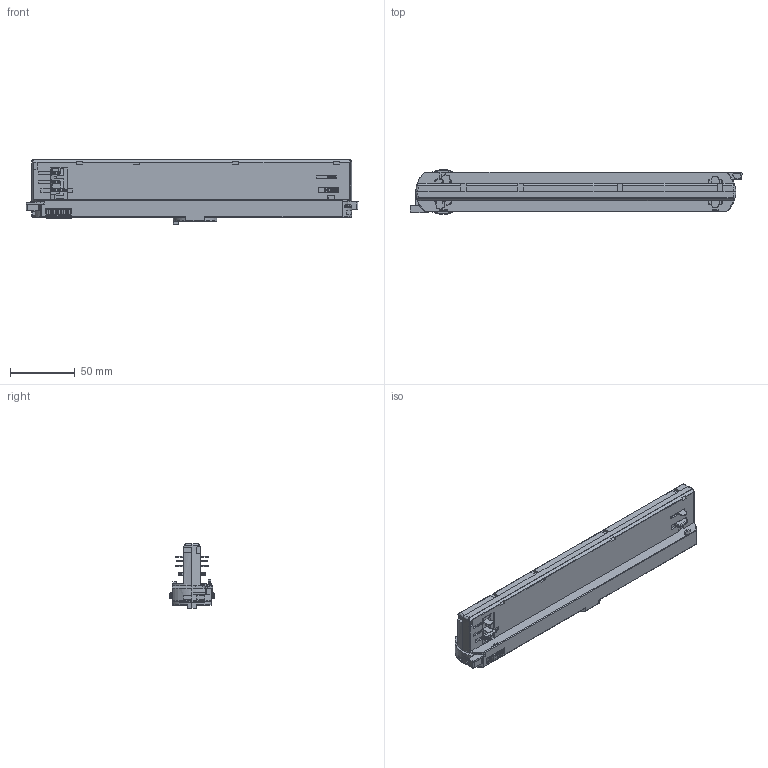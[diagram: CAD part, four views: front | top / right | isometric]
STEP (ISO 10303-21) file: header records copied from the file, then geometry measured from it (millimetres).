
FILE_DESCRIPTION(/* description */ (''),/* implementation_level */ '2;1');
FILE_NAME(/* name */ 'FDS-30~2',/* time_stamp */ '2023-07-05T16:58:20+08:00',/* author */ (''),/* organization */ (''),/* preprocessor_version */ 'ST-DEVELOPER v16.5',/* originating_system */ '',/* authorisation */ '');
FILE_SCHEMA (('AUTOMOTIVE_DESIGN'));
Products named in the file (1): Document
Bounding box: 257.23 x 34.99 x 50 mm (x, y, z)
Volume: 2332.3 mm3; surface area: 48175 mm2
Topology: 1 solids, 4 shells, 1787 faces, 4645 edges, 2850 vertices
Faces by surface type: bspline 1097, plane 690
Entity records: 164009 total; most frequent: CARTESIAN_POINT 135677, ORIENTED_EDGE 9280, EDGE_CURVE 4645, B_SPLINE_CURVE_WITH_KNOTS 3524, VERTEX_POINT 2850, EDGE_LOOP 1818, ADVANCED_FACE 1786, FACE_OUTER_BOUND 1786
